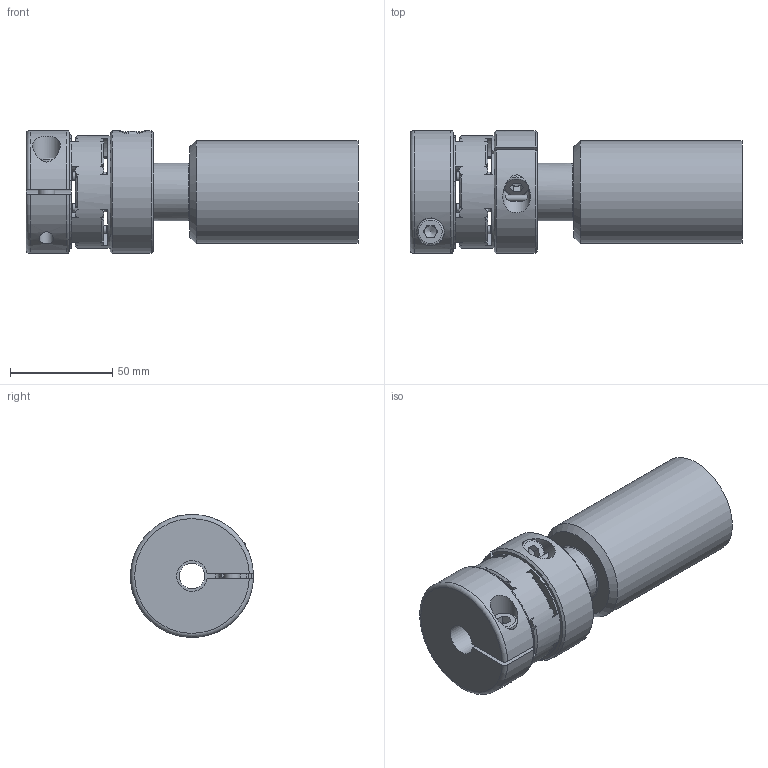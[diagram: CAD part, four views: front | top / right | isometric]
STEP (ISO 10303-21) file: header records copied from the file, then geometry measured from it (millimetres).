
FILE_DESCRIPTION( ( 'Unknown' ), '1' );
FILE_NAME( 'F:/JAKOB-STEP+IGES-Dateien/STEP-Dateien/EKZ/EKZ 90.stp', 'Unknown', ( 'Unknown' ), ( 'Unknown' ), 'PSStep 10.1', 'Unknown', ' ' );
FILE_SCHEMA( ( 'AUTOMOTIVE_DESIGN { 1 0 10303 214 1 1 1 1 }' ) );
Length unit declared in the file: millimetre
Products named in the file (1): KT102039-oa7
Bounding box: 162 x 59.98 x 59.99 mm (x, y, z)
Volume: 195224.8 mm3; surface area: 62765.8 mm2
Topology: 1 solids, 1 shells, 231 faces, 648 edges, 415 vertices
Faces by surface type: cylinder 81, cone 76, plane 66, torus 8
Full cylindrical faces by diameter (mm): 4 x8, 6.8 x1, 7 x1, 8 x2, 8.5 x1, 8.6 x1, 12.5 x1, 13 x2, 13.5 x2, 20 x1, 27 x2, 28 x1, 36 x1, 44 x1, 50 x1, 55 x1
Entity records: 9684 total; most frequent: CARTESIAN_POINT 2180, DIRECTION 1188, ORIENTED_EDGE 1160, EDGE_CURVE 580, AXIS2_PLACEMENT_3D 516, VERTEX_POINT 392, EDGE_LOOP 304, CIRCLE 285
